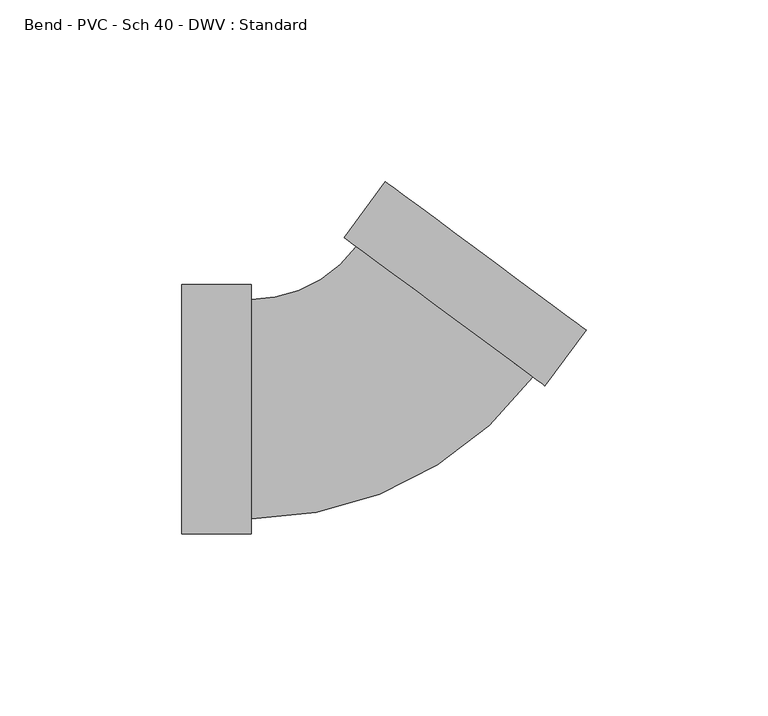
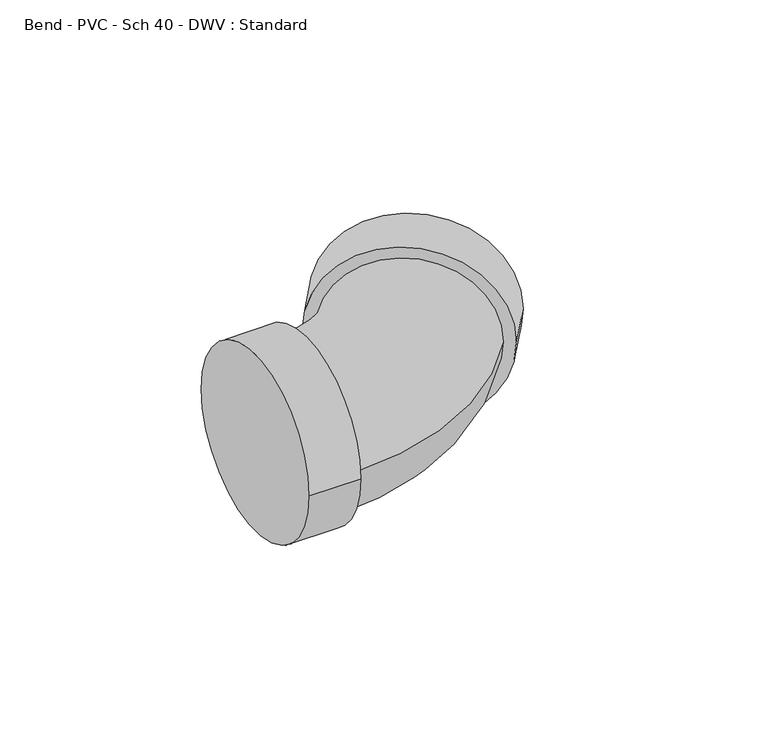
"""IFC4 building model written with IfcOpenShell, lengths in millimetres: pipe fitting geometry, Bend - PVC - Sch 40 - DWV : Standard."""

from ifc_helpers import new_model, si_unit, point, frame, origin, place, context, project, spatial, circle_curve, ellipse_curve, trimmed, source, transform, mapped, element, save
from ifc_brep_helpers import plane_surface, cylinder_surface, revolved_surface, advanced_brep


def bend_pvc_sch_40_dwv_standard_be5bc2fd(model_context):
    return source(origin(), model_context, "Body", "AdvancedBrep", [
        advanced_brep(
        [(-52.4002, -34.3154, 0.0), (-52.4002, 34.3154, 0.0), (-33.3502, -34.3154, 0.0), (-33.3502, 34.3154, 0.0), (-33.3502, -30.1625, 0.0), (-33.3502, 30.1625, 0.0), (-4.4242607, 44.7486107, 0.0), (44.0807398, 8.8826024, 0.0), (47.4199261, 6.4135109, 0.0), (-7.7634471, 47.2177023, 0.0), (58.746034, 21.7308795, 0.0), (3.5626608, 62.5350708, 0.0)],
        [
            (0, 1, circle_curve(frame((-52.4002, 0.0, 0.0), z_axis=(-1.0, 0.0, 0.0), x_axis=(0.0, 1.0, 0.0)), 34.3154)),
            (1, 0, circle_curve(frame((-52.4002, 0.0, 0.0), z_axis=(-1.0, 0.0, 0.0), x_axis=(0.0, 1.0, 0.0)), 34.3154)),
            (2, 3, circle_curve(frame((-33.3502, 0.0, 0.0), z_axis=(1.0, 0.0, 0.0), x_axis=(0.0, 1.0, 0.0)), 34.3154)),
            (3, 2, circle_curve(frame((-33.3502, 0.0, 0.0), z_axis=(1.0, 0.0, 0.0), x_axis=(0.0, 1.0, 0.0)), 34.3154)),
            (4, 5, circle_curve(frame((-33.3502, 0.0, 0.0), z_axis=(-1.0, 0.0, 0.0), x_axis=(0.0, 1.0, 0.0)), 30.1625)),
            (5, 4, circle_curve(frame((-33.3502, 0.0, 0.0), z_axis=(-1.0, 0.0, 0.0), x_axis=(0.0, 1.0, 0.0)), 30.1625)),
            (0, 2),
            (3, 1),
            (6, 5, circle_curve(frame((-33.3502, 66.1372917, 0.0), z_axis=(0.0, 0.0, -1.0), x_axis=(0.0, -1.0, 0.0)), 35.9747917)),
            (4, 7, circle_curve(frame((-33.3502, 66.1372917, 0.0), z_axis=(0.0, 0.0, 1.0), x_axis=(0.0, -1.0, 0.0)), 96.2997917)),
            (7, 6, circle_curve(frame((19.8282395, 26.8156066, 0.0), z_axis=(-0.5945463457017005, -0.8040613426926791, 0.0), x_axis=(-0.8040613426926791, 0.5945463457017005, 0.0)), 30.1625)),
            (6, 7, circle_curve(frame((19.8282395, 26.8156066, 0.0), z_axis=(-0.5945463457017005, -0.8040613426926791, 0.0), x_axis=(-0.8040613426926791, 0.5945463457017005, 0.0)), 30.1625)),
            (8, 9, circle_curve(frame((19.8282395, 26.8156066, 0.0), z_axis=(-0.5945463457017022, -0.8040613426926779, 0.0), x_axis=(-0.8040613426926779, 0.5945463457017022, 0.0)), 34.3154)),
            (9, 8, circle_curve(frame((19.8282395, 26.8156066, 0.0), z_axis=(-0.5945463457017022, -0.8040613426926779, 0.0), x_axis=(-0.8040613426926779, 0.5945463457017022, 0.0)), 34.3154)),
            (10, 11, circle_curve(frame((31.1543474, 42.1329752, 0.0), z_axis=(0.5945463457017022, 0.8040613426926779, 0.0), x_axis=(-0.8040613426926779, 0.5945463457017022, 0.0)), 34.3154)),
            (11, 10, circle_curve(frame((31.1543474, 42.1329752, 0.0), z_axis=(0.5945463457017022, 0.8040613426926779, 0.0), x_axis=(-0.8040613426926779, 0.5945463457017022, 0.0)), 34.3154)),
            (8, 10),
            (11, 9),
        ],
        [
            plane_surface(frame((-52.4002, 0.0, 0.0), z_axis=(-1.0, 0.0, 0.0), x_axis=(0.0, 0.0, 1.0))),
            plane_surface(frame((-33.3502, 0.0, 0.0), z_axis=(1.0, 0.0, 0.0), x_axis=(0.0, 0.0, 1.0))),
            cylinder_surface(frame((-52.4002, 0.0, 0.0), z_axis=(-1.0, 0.0, 0.0), x_axis=(0.0, 1.0, 0.0)), 34.3154),
            revolved_surface(trimmed(ellipse_curve(frame((-33.3502, 0.0, 0.0), z_axis=(-1.0, 0.0, 0.0), x_axis=(0.0, 1.0, 0.0)), 30.1625, 30.1625), [point((-33.3502, -30.1625, 0.0))], [point((-33.3502, 30.1625, 0.0))], True, "CARTESIAN"), (-33.3502, 66.1372917, 0.0), (0.0, 0.0, 1.0)),
            revolved_surface(trimmed(ellipse_curve(frame((-33.3502, 0.0, 0.0), z_axis=(-1.0, 0.0, 0.0), x_axis=(0.0, 1.0, 0.0)), 30.1625, 30.1625), [point((-33.3502, 30.1625, 0.0))], [point((-33.3502, -30.1625, 0.0))], True, "CARTESIAN"), (-33.3502, 66.1372917, 0.0), (0.0, 0.0, 1.0)),
            plane_surface(frame((19.8282395, 26.8156066, 0.0), z_axis=(-0.5945463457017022, -0.8040613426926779, 0.0), x_axis=(0.0, 0.0, 1.0))),
            plane_surface(frame((31.1543474, 42.1329752, 0.0), z_axis=(0.5945463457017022, 0.8040613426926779, 0.0), x_axis=(0.0, 0.0, 1.0))),
            cylinder_surface(frame((19.8282395, 26.8156066, 0.0), z_axis=(-0.5945463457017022, -0.8040613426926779, 0.0), x_axis=(-0.8040613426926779, 0.5945463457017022, 0.0)), 34.3154),
        ],
        [
            (0, [[1, 2]]),
            (1, [[3, 4], [5, 6]]),
            (2, [[-1, 7, -4, 8]]),
            (2, [[-2, -8, -3, -7]]),
            (3, [[9, -5, 10, 11]]),
            (4, [[-9, 12, -10, -6]]),
            (5, [[13, 14], [-11, -12]]),
            (6, [[15, 16]]),
            (7, [[-13, 17, -16, 18]]),
            (7, [[-14, -18, -15, -17]]),
        ],
    ),
    ])


if __name__ == "__main__":
    model = new_model("IFC4")
    model_context = context("Model", 3, world=origin())
    ifc_project = project(units=[si_unit("LENGTHUNIT", "METRE", prefix="MILLI")], contexts=[model_context])
    site = spatial("IfcSite", under=ifc_project)
    building = spatial("IfcBuilding", under=site)
    placement = place(None, origin())
    bend_pvc_sch_40_dwv_standard_shape = bend_pvc_sch_40_dwv_standard_be5bc2fd(model_context)
    element("IfcPipeFitting", 1, ObjectType="Bend - PVC - Sch 40 - DWV : Standard", at=placement, inside=building, context=model_context, shape_type="MappedRepresentation", body=[
        mapped(bend_pvc_sch_40_dwv_standard_shape, transform((0.0, 0.0, 0.0), x_axis=(1.0, 0.0, 0.0), y_axis=(0.0, 1.0, 0.0), z_axis=(0.0, 0.0, 1.0))),
    ])
    save(model, "model.ifc")
